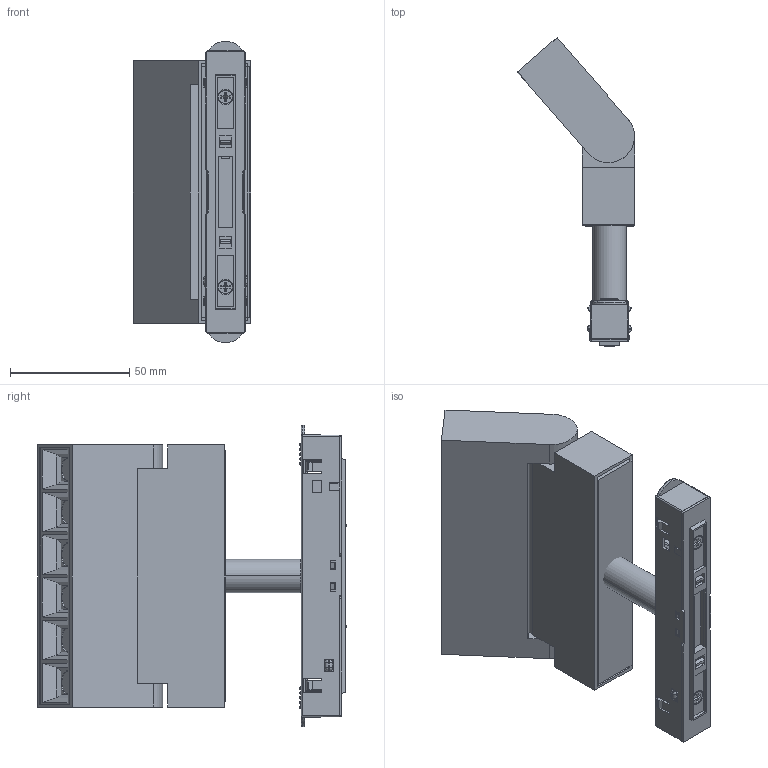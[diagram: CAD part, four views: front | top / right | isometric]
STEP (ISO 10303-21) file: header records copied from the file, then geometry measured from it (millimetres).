
FILE_DESCRIPTION((''),'2;1');
FILE_NAME('ZHEDIE_GESHAN-DUANKUAN-110_ASM','2023-06-16T',('Administrator'),(''),'PRO/ENGINEER BY PARAMETRIC TECHNOLOGY CORPORATION, 2015070','PRO/ENGINEER BY PARAMETRIC TECHNOLOGY CORPORATION, 2015070','');
FILE_SCHEMA(('CONFIG_CONTROL_DESIGN','SHAPE_APPEARANCE_LAYERS_GROUPS'));
Products named in the file (26): ZHIJIA_DUANKUAN_SHANGGAI; ZHIJIA_DUANKUAN; ZHIJIA_0_105MM; MANIFOLD_SOLID_BREP_5140_2; _________________M2_5X5; MANIFOLD_SOLID_BREP_5136_8; 03_X_T; MANIFOLD_SOLID_BREP_5132_2; MANIFOLD_SOLID_BREP_5139_2; MANIFOLD_SOLID_BREP_5135_2; MANIFOLD_SOLID_BREP_53625; MANIFOLD_SOLID_BREP_45179; 08-22-W1_37_ASM_ASM; MANIFOLD_SOLID_BREP_5138_2; ________________M3X6; MANIFOLD_SOLID_BREP_5134_2; 08-20-PC1_6; MANIFOLD_SOLID_BREP_5137_2; MANIFOLD_SOLID_BREP_5133_2; 20__________________________GN-_ASM; 20_CIXI_ASM; MANIFOLD_SOLID_BREP_5198; MANIFOLD_SOLID_BREP_5197; ZUJIAN_TOUJING_6_ASM; 1432LVJIAN; ZHEDIE_GESHAN-DUANKUAN-110_ASM
Assembly tree (27 placements, depth 5):
  ZHEDIE_GESHAN-DUANKUAN-110_ASM
    ZHIJIA_DUANKUAN_SHANGGAI
    ZHIJIA_DUANKUAN
    ZHIJIA_0_105MM
    20_CIXI_ASM
      20__________________________GN-_ASM
        MANIFOLD_SOLID_BREP_5140_2
        _________________M2_5X5  x2
        MANIFOLD_SOLID_BREP_5136_8
        03_X_T
        MANIFOLD_SOLID_BREP_5132_2
        MANIFOLD_SOLID_BREP_5139_2
        MANIFOLD_SOLID_BREP_5135_2
        08-22-W1_37_ASM_ASM
          MANIFOLD_SOLID_BREP_53625
          MANIFOLD_SOLID_BREP_45179
        MANIFOLD_SOLID_BREP_5138_2
        ________________M3X6  x2
        MANIFOLD_SOLID_BREP_5134_2
        08-20-PC1_6
        MANIFOLD_SOLID_BREP_5137_2
        MANIFOLD_SOLID_BREP_5133_2
    ZUJIAN_TOUJING_6_ASM
      MANIFOLD_SOLID_BREP_5198
      MANIFOLD_SOLID_BREP_5197
    1432LVJIAN
Bounding box: 49.09 x 129.48 x 126.5 mm (x, y, z)
Volume: 105098.5 mm3; surface area: 98968.1 mm2
Topology: 23 solids, 23 shells, 2027 faces, 5427 edges, 3505 vertices
Faces by surface type: plane 1274, cylinder 433, cone 134, bspline 125, torus 58, extrusion 3
Entity records: 73588 total; most frequent: CARTESIAN_POINT 19158, ORIENTED_EDGE 10646, DIRECTION 9662, EDGE_CURVE 5323, VECTOR 3664, LINE 3661, VERTEX_POINT 3446, AXIS2_PLACEMENT_3D 2999
